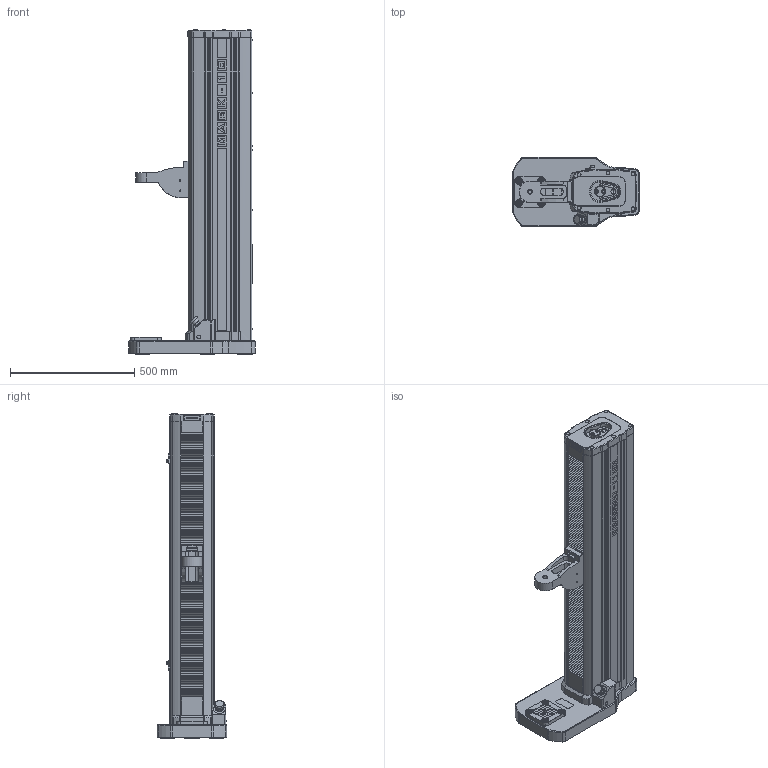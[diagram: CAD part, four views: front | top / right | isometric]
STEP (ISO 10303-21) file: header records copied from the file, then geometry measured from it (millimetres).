
FILE_DESCRIPTION(/* description */ (''),/* implementation_level */ '2;1');
FILE_NAME(/* name */ 'F:\CAD files\Itr\3D MARKETING MODELS\MOTORIZED TEST STANDS\FXXX5X\F1505-IM\F1505_IM.stp',/* time_stamp */ '2021-02-05T15:28:04-05:00',/* author */ ('dsollitt'),/* organization */ (''),/* preprocessor_version */ 'ST-DEVELOPER v18.1',/* originating_system */ 'AutoCAD Mechanical',/* authorisation */ '');
FILE_SCHEMA (('AUTOMOTIVE_DESIGN { 1 0 10303 214 3 1 1 }'));
Products named in the file (1): Product
Bounding box: 508 x 278.99 x 1305.45 mm (x, y, z)
Volume: 58961019.5 mm3; surface area: 2471424 mm2
Topology: 6 solids, 11 shells, 8974 faces, 26274 edges, 18154 vertices
Faces by surface type: plane 7347, cylinder 1245, cone 217, torus 85, bspline 47, sphere 33
Full cylindrical faces by diameter (mm): 0.4 x1, 0.6 x1, 1.015 x2, 1.55 x4, 1.797 x2, 2 x2, 2.13 x1, 2.845 x14, 3.048 x14, 3.328 x1, 3.505 x2, 4.7 x24, 4.826 x48, 5.41 x14, 5.563 x2, 6 x2, 6.35 x42, 6.731 x4, 7.938 x4, 9.525 x6, 9.8 x1, 11.906 x2, 12.1 x1, 12.7 x3, 12.8 x2, 12.954 x4, 13.462 x2, 13.487 x4, 14.1 x1, 15.062 x7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
Entity records: 311353 total; most frequent: CARTESIAN_POINT 68731, ORIENTED_EDGE 52526, DIRECTION 46953, EDGE_CURVE 26263, LINE 22577, VECTOR 22577, VERTEX_POINT 18154, AXIS2_PLACEMENT_3D 12188
